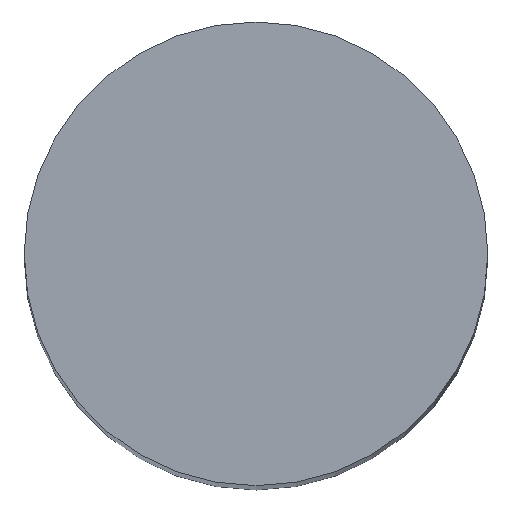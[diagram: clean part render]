
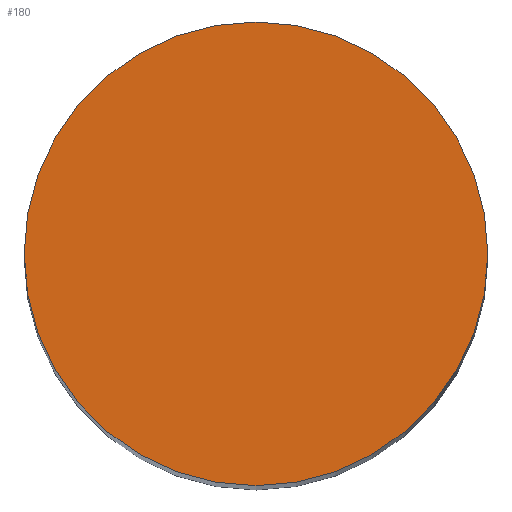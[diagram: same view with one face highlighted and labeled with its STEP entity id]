
A CAD part, top view. The second image highlights one B-rep face of the part: STEP entity #180.
In plain terms, the highlighted planar face has unit normal (0, 0, 1).
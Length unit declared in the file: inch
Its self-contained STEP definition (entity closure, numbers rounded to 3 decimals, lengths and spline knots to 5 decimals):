
#133=CARTESIAN_POINT('',(0.0,-0.31495,3.622));
#134=VERTEX_POINT('',#133);
#142=CARTESIAN_POINT('',(0.0,0.31495,3.622));
#143=VERTEX_POINT('',#142);
#150=CARTESIAN_POINT('',(0.0,0.0,3.622));
#151=DIRECTION('',(0.0,-0.0,-1.0));
#152=DIRECTION('',(0.0,1.0,-0.0));
#153=AXIS2_PLACEMENT_3D('',#150,#151,#152);
#154=CIRCLE('',#153,0.31495);
#155=EDGE_CURVE('no 1299',#143,#134,#154,.T.);
#165=CARTESIAN_POINT('',(0.0,0.0,3.622));
#166=DIRECTION('',(0.0,-0.0,-1.0));
#167=DIRECTION('',(0.0,1.0,-0.0));
#168=AXIS2_PLACEMENT_3D('',#165,#166,#167);
#169=CIRCLE('',#168,0.31495);
#170=EDGE_CURVE('no 1303',#134,#143,#169,.T.);
#171=ORIENTED_EDGE('',*,*,#170,.F.);
#172=ORIENTED_EDGE('',*,*,#155,.F.);
#173=EDGE_LOOP('',(#171,#172));
#174=FACE_OUTER_BOUND('',#173,.T.);
#175=CARTESIAN_POINT('',(0.31495,0.0,3.622));
#176=DIRECTION('',(0.0,0.0,1.0));
#177=DIRECTION('',(0.0,-1.0,0.0));
#178=AXIS2_PLACEMENT_3D('',#175,#176,#177);
#179=PLANE('',#178);
#180=ADVANCED_FACE('no 1393',(#174),#179,.T.);
